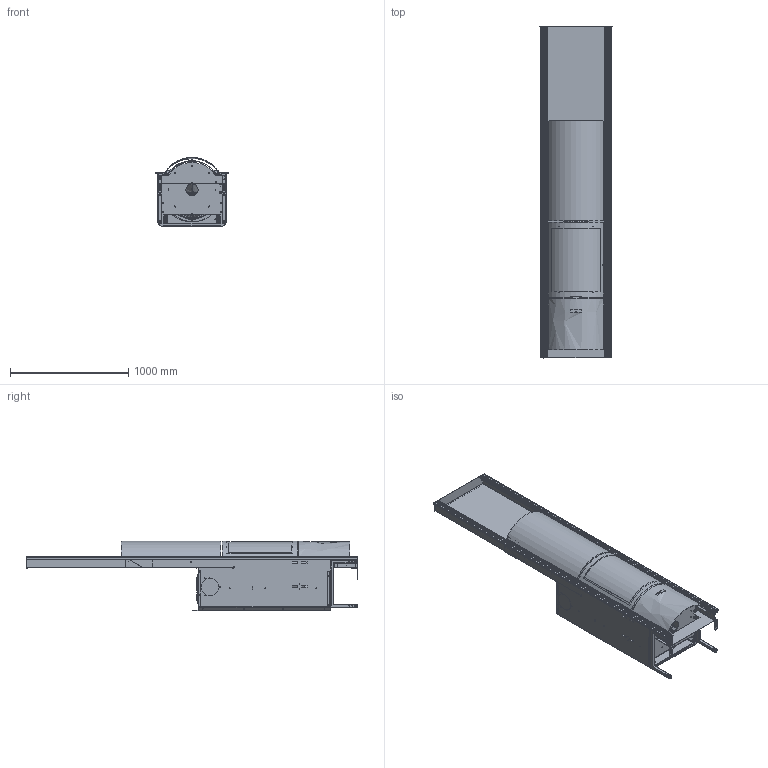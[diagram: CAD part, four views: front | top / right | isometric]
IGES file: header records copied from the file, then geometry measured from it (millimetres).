
Start section:  PTC IGES file: 30inr.igs
Global section: file name: 30inr.igs; native system: Creo Parametric by Parametric Technology Corporation; preprocessor: 2013410; author: dch; organization: Unknown; date: 20140320.140537; units: millimetre
Bounding box: 613 x 2802 x 584.5 mm (x, y, z)
Volume: 10428601.3 mm3; surface area: 13418496.8 mm2
Topology: 14 solids, 20 shells, 3088 faces, 8384 edges, 5336 vertices
Faces by surface type: bspline 1729, revolution 1359
